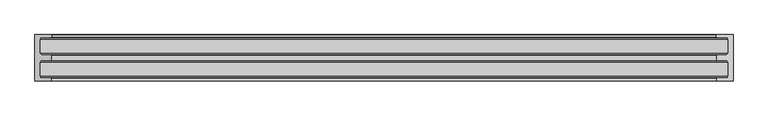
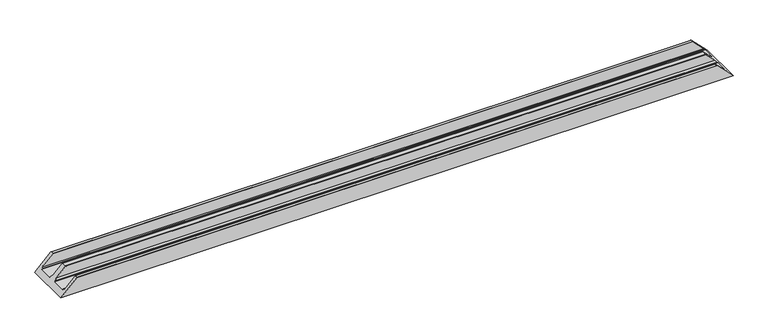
"""IFC4 building model written with IfcOpenShell, lengths in millimetres: proxy geometry, Weiku - Montante - Caixilho duplo 02.3.02.409 : Weiku - Montante - Caixilho duplo 02.3.02.409."""

from ifc_helpers import new_model, si_unit, frame, origin, place, context, project, spatial, ellipse_curve, source, transform, mapped, element, save
from ifc_brep_helpers import plane_surface, cylinder_surface, advanced_brep


def generic_models_1b83c517(model_context):
    return source(origin(), model_context, "Body", "AdvancedBrep", [
        advanced_brep(
        [(-1158.0, 9.8, 18.2), (-1120.3, 9.8, 55.9), (1120.3, 9.8, 55.9), (1158.0, 9.8, 18.2), (-1160.5000079, 63.85, 15.6999921), (-1160.5000079, 15.05, 15.6999921), (1160.5000079, 15.05, 15.6999921), (1160.5000079, 63.85, 15.6999921), (-1120.3000055, 69.1, 55.8999945), (-1152.3700642, 69.1, 23.8299358), (1152.3700642, 69.1, 23.8299358), (1120.3000055, 69.1, 55.8999945), (-1119.8000055, 86.65, 56.3999945), (-1119.8000055, 69.6, 56.3999945), (1119.8000055, 69.6, 56.3999945), (1119.8000055, 86.65, 56.3999945), (-1152.4236827, 87.15, 23.7763173), (-1120.3000055, 87.15, 55.8999945), (1120.3000055, 87.15, 55.8999945), (1152.4236827, 87.15, 23.7763173), (-1176.2, 156.2000166, 0.0), (1176.2, 156.2000166, 0.0), (1176.2, 0.0, 0.0), (-1176.2, 0.0, 0.0), (1120.3, 0.0, 55.9), (-1120.3, 0.0, 55.9), (-1119.8, 9.3, 56.4), (-1119.8, 0.5, 56.4), (1119.8, 0.5, 56.4), (1119.8, 9.3, 56.4), (-1158.0, 15.05, 18.2), (-1158.0, 63.85, 18.2), (-1158.0000178, 92.3500166, 18.1999822), (-1160.5000079, 92.3500166, 15.6999921), (-1160.5000079, 141.1500166, 15.6999921), (-1158.0, 141.1500166, 18.2), (-1158.0, 146.4000166, 18.2), (-1120.3, 146.4000166, 55.9), (-1119.8, 146.9000166, 56.4), (-1119.8, 155.7000166, 56.4), (-1120.3, 156.2000166, 55.9), (1120.3, 156.2000166, 55.9), (1119.8, 155.7000166, 56.4), (1119.8, 146.9000166, 56.4), (1120.3, 146.4000166, 55.9), (1158.0, 146.4000166, 18.2), (1158.0, 141.1500166, 18.2), (1160.5000079, 141.1500166, 15.6999921), (1160.5000079, 92.3500166, 15.6999921), (1158.0000178, 92.3500166, 18.1999822), (1158.0, 63.85, 18.2), (1158.0, 15.05, 18.2)],
        [
            (0, 1),
            (1, 2),
            (2, 3),
            (3, 0),
            (4, 5),
            (5, 6),
            (6, 7),
            (7, 4),
            (8, 9),
            (9, 10),
            (10, 11),
            (11, 8),
            (12, 13),
            (13, 14),
            (14, 15),
            (15, 12),
            (16, 17),
            (17, 18),
            (18, 19),
            (19, 16),
            (20, 21),
            (21, 22),
            (22, 23),
            (23, 20),
            (22, 24),
            (24, 25),
            (25, 23),
            (26, 27),
            (27, 28),
            (28, 29),
            (29, 26),
            (0, 30),
            (30, 5),
            (4, 31),
            (31, 9),
            (8, 13, ellipse_curve(frame((-1120.3000055, 69.6, 55.8999945), z_axis=(-0.7071067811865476, 0.0, 0.7071067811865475), x_axis=(-0.7071067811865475, 0.0, -0.7071067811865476)), 0.7071068, 0.5)),
            (12, 17, ellipse_curve(frame((-1120.3000055, 86.65, 55.8999945), z_axis=(-0.7071067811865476, 0.0, 0.7071067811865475), x_axis=(-0.7071067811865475, 0.0, -0.7071067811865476)), 0.7071068, 0.5)),
            (16, 32),
            (32, 33),
            (33, 34),
            (34, 35),
            (35, 36),
            (36, 37),
            (37, 38, ellipse_curve(frame((-1120.3, 146.9000166, 55.9), z_axis=(-0.7071067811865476, 0.0, 0.7071067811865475), x_axis=(-0.7071067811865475, 0.0, -0.7071067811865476)), 0.7071068, 0.5)),
            (38, 39),
            (39, 40, ellipse_curve(frame((-1120.3, 155.7000166, 55.9), z_axis=(-0.7071067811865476, 0.0, 0.7071067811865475), x_axis=(-0.7071067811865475, 0.0, -0.7071067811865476)), 0.7071068, 0.5)),
            (40, 20),
            (25, 27, ellipse_curve(frame((-1120.3, 0.5, 55.9), z_axis=(-0.7071067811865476, 0.0, 0.7071067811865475), x_axis=(-0.7071067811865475, 0.0, -0.7071067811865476)), 0.7071068, 0.5)),
            (26, 1, ellipse_curve(frame((-1120.3, 9.3, 55.9), z_axis=(-0.7071067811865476, 0.0, 0.7071067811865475), x_axis=(-0.7071067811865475, 0.0, -0.7071067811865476)), 0.7071068, 0.5)),
            (2, 29, ellipse_curve(frame((1120.3, 9.3, 55.9), z_axis=(0.7071067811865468, 0.0, 0.7071067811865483), x_axis=(-0.7071067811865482, 0.0, 0.7071067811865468)), 0.7071068, 0.5)),
            (28, 24, ellipse_curve(frame((1120.3, 0.5, 55.9), z_axis=(0.7071067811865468, 0.0, 0.7071067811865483), x_axis=(-0.7071067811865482, 0.0, 0.7071067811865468)), 0.7071068, 0.5)),
            (21, 41),
            (41, 42, ellipse_curve(frame((1120.3, 155.7000166, 55.9), z_axis=(0.7071067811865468, 0.0, 0.7071067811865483), x_axis=(-0.7071067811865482, 0.0, 0.7071067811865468)), 0.7071068, 0.5)),
            (42, 43),
            (43, 44, ellipse_curve(frame((1120.3, 146.9000166, 55.9), z_axis=(0.7071067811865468, 0.0, 0.7071067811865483), x_axis=(-0.7071067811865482, 0.0, 0.7071067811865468)), 0.7071068, 0.5)),
            (44, 45),
            (45, 46),
            (46, 47),
            (47, 48),
            (48, 49),
            (49, 19),
            (18, 15, ellipse_curve(frame((1120.3000055, 86.65, 55.8999945), z_axis=(0.7071067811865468, 0.0, 0.7071067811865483), x_axis=(-0.7071067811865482, 0.0, 0.7071067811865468)), 0.7071068, 0.5)),
            (14, 11, ellipse_curve(frame((1120.3000055, 69.6, 55.8999945), z_axis=(0.7071067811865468, 0.0, 0.7071067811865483), x_axis=(-0.7071067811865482, 0.0, 0.7071067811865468)), 0.7071068, 0.5)),
            (10, 50),
            (50, 7),
            (6, 51),
            (51, 3),
            (51, 30),
            (50, 31),
            (49, 32),
            (48, 33),
            (47, 34),
            (46, 35),
            (45, 36),
            (44, 37),
            (38, 43),
            (42, 39),
            (41, 40),
        ],
        [
            plane_surface(frame((-1176.2, 9.8, 55.9), z_axis=(0.0, 1.0, 0.0), x_axis=(1.0, 0.0, 0.0))),
            plane_surface(frame((-1176.2, 15.05, 15.6999921), z_axis=(0.0, 0.0, 1.0), x_axis=(1.0, 0.0, 0.0))),
            plane_surface(frame((-1176.2, 69.1, 23.8299358), z_axis=(0.0, -1.0, 0.0), x_axis=(1.0, 0.0, 0.0))),
            plane_surface(frame((-1176.2, 69.6, 56.3999945), z_axis=(0.0, 0.0, 1.0), x_axis=(1.0, 0.0, 0.0))),
            plane_surface(frame((-1176.2, 87.15, 55.8999945), z_axis=(0.0, 1.0, 0.0), x_axis=(1.0, 0.0, 0.0))),
            plane_surface(frame((-1176.2, 156.2000166, 0.0), z_axis=(0.0, 0.0, -1.0), x_axis=(1.0, 0.0, 0.0))),
            plane_surface(frame((-1176.2, 0.0, 0.0), z_axis=(0.0, -1.0, 0.0), x_axis=(1.0, 0.0, 0.0))),
            plane_surface(frame((-1176.2, 0.5, 56.4), z_axis=(0.0, 0.0, 1.0), x_axis=(1.0, 0.0, 0.0))),
            plane_surface(frame((-1176.2, 0.0, 0.0), z_axis=(-0.7071067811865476, 0.0, 0.7071067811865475), x_axis=(0.0, 1.0, 0.0))),
            plane_surface(frame((1116.2, 0.0, 60.0), z_axis=(0.7071067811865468, 0.0, 0.7071067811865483), x_axis=(0.0, 1.0, 0.0))),
            plane_surface(frame((-1176.2, 9.8, 18.2), z_axis=(0.0, 0.0, 1.0), x_axis=(1.0, 0.0, 0.0))),
            plane_surface(frame((-1176.2, 15.05, 18.2), z_axis=(0.0, 1.0, 0.0), x_axis=(1.0, 0.0, 0.0))),
            plane_surface(frame((-1176.2, 63.85, 15.6999921), z_axis=(0.0, -1.0, 0.0), x_axis=(1.0, 0.0, 0.0))),
            plane_surface(frame((-1176.2, 63.85, 18.2), z_axis=(0.0, -0.7313537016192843, 0.6819983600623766), x_axis=(1.0, 0.0, 0.0))),
            cylinder_surface(frame((-1176.2, 86.65, 55.8999945), z_axis=(-1.0, 0.0, 0.0), x_axis=(0.0, 1.0, 0.0)), 0.5),
            cylinder_surface(frame((-1176.2, 0.5, 55.9), z_axis=(-1.0, 0.0, 0.0), x_axis=(0.0, 1.0, 0.0)), 0.5),
            plane_surface(frame((-1176.2, 87.15, 23.7763173), z_axis=(0.0, 0.7313537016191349, 0.6819983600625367), x_axis=(1.0, 0.0, 0.0))),
            plane_surface(frame((-1176.2, 92.3500166, 18.1999822), z_axis=(0.0, 1.0, 0.0), x_axis=(1.0, 0.0, 0.0))),
            plane_surface(frame((-1176.2, 92.3500166, 15.6999921), z_axis=(0.0, 0.0, 1.0), x_axis=(1.0, 0.0, 0.0))),
            plane_surface(frame((-1176.2, 141.1500166, 15.6999921), z_axis=(0.0, -1.0, 0.0), x_axis=(1.0, 0.0, 0.0))),
            plane_surface(frame((-1176.2, 141.1500166, 18.2), z_axis=(0.0, 0.0, 1.0), x_axis=(1.0, 0.0, 0.0))),
            plane_surface(frame((-1176.2, 146.4000166, 18.2), z_axis=(0.0, -1.0, 0.0), x_axis=(1.0, 0.0, 0.0))),
            plane_surface(frame((-1176.2, 146.9000166, 56.4), z_axis=(0.0, 0.0, 1.0), x_axis=(1.0, 0.0, 0.0))),
            cylinder_surface(frame((-1176.2, 155.7000166, 55.9), z_axis=(-1.0, 0.0, 0.0), x_axis=(0.0, -1.0, 0.0)), 0.5),
            plane_surface(frame((-1176.2, 156.2000166, 55.9), z_axis=(0.0, 1.0, 0.0), x_axis=(1.0, 0.0, 0.0))),
            cylinder_surface(frame((-1176.2, 9.3, 55.9), z_axis=(-1.0, 0.0, 0.0), x_axis=(0.0, 1.0, 0.0)), 0.5),
            cylinder_surface(frame((-1176.2, 69.6, 55.8999945), z_axis=(-1.0, 0.0, 0.0), x_axis=(0.0, 1.0, 0.0)), 0.5),
            cylinder_surface(frame((-1176.2, 146.9000166, 55.9), z_axis=(-1.0, 0.0, 0.0), x_axis=(0.0, 1.0, 0.0)), 0.5),
        ],
        [
            (0, [[1, 2, 3, 4]]),
            (1, [[5, 6, 7, 8]]),
            (2, [[9, 10, 11, 12]]),
            (3, [[13, 14, 15, 16]]),
            (4, [[17, 18, 19, 20]]),
            (5, [[21, 22, 23, 24]]),
            (6, [[-23, 25, 26, 27]]),
            (7, [[28, 29, 30, 31]]),
            (8, [[-1, 32, 33, -5, 34, 35, -9, 36, -13, 37, -17, 38, 39, 40, 41, 42, 43, 44, 45, 46, 47, -24, -27, 48, -28, 49]]),
            (9, [[-3, 50, -30, 51, -25, -22, 52, 53, 54, 55, 56, 57, 58, 59, 60, 61, -19, 62, -15, 63, -11, 64, 65, -7, 66, 67]]),
            (10, [[-32, -4, -67, 68]]),
            (11, [[-33, -68, -66, -6]]),
            (12, [[-34, -8, -65, 69]]),
            (13, [[-35, -69, -64, -10]]),
            (14, [[-37, -16, -62, -18]]),
            (15, [[-48, -26, -51, -29]]),
            (16, [[-38, -20, -61, 70]]),
            (17, [[-39, -70, -60, 71]]),
            (18, [[-40, -71, -59, 72]]),
            (19, [[-41, -72, -58, 73]]),
            (20, [[-42, -73, -57, 74]]),
            (21, [[-43, -74, -56, 75]]),
            (22, [[-45, 76, -54, 77]]),
            (23, [[-46, -77, -53, 78]]),
            (24, [[-21, -47, -78, -52]]),
            (25, [[-49, -31, -50, -2]]),
            (26, [[-36, -12, -63, -14]]),
            (27, [[-44, -75, -55, -76]]),
        ],
    ),
    ])


if __name__ == "__main__":
    model = new_model("IFC4")
    model_context = context("Model", 3, world=origin())
    ifc_project = project(units=[si_unit("LENGTHUNIT", "METRE", prefix="MILLI")], contexts=[model_context])
    site = spatial("IfcSite", under=ifc_project)
    building = spatial("IfcBuilding", under=site)
    placement = place(None, origin())
    generic_models_shape = generic_models_1b83c517(model_context)
    element("IfcBuildingElementProxy", 1, Name="Weiku - Montante - Caixilho duplo 02.3.02.409 : Weiku - Montante - Caixilho duplo 02.3.02.409", ObjectType="Weiku - Montante - Caixilho duplo 02.3.02.409 : Weiku - Montante - Caixilho duplo 02.3.02.409", at=placement, inside=building, context=model_context, shape_type="MappedRepresentation", body=[
        mapped(generic_models_shape, transform((0.0, 0.0, 0.0), x_axis=(1.0, 0.0, 0.0), y_axis=(0.0, 1.0, 0.0), z_axis=(0.0, 0.0, 1.0))),
    ])
    save(model, "model.ifc")
